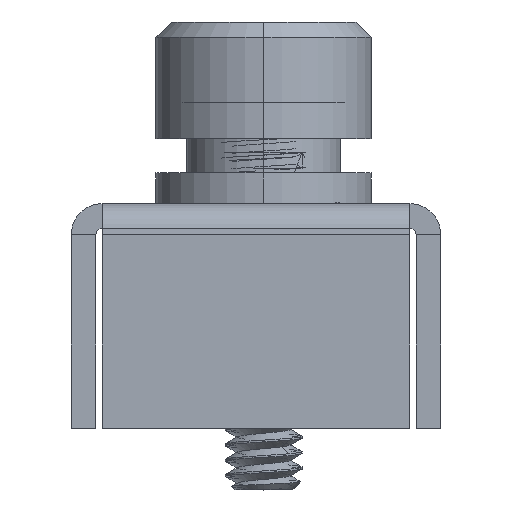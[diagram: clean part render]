
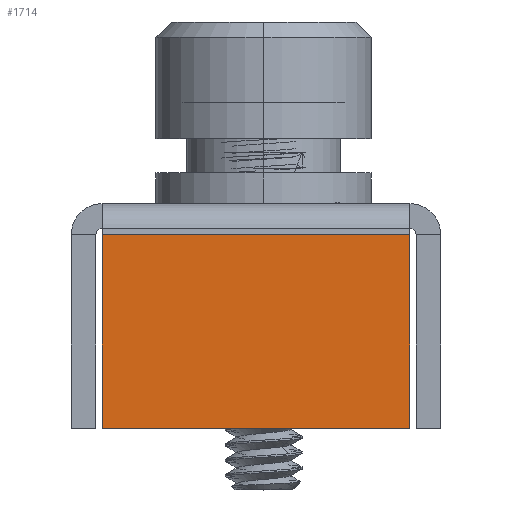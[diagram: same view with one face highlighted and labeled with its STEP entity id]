
A CAD part, left-side view. The second image highlights one B-rep face of the part: STEP entity #1714.
In plain terms, the highlighted planar face has unit normal (-1, 0, 0).
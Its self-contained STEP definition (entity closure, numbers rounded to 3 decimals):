
#345=DIRECTION('',(0.,0.,1.));
#346=VECTOR('',#345,6.3);
#347=CARTESIAN_POINT('',(-197.5,160.5,-6.5));
#348=LINE('',#347,#346);
#349=DIRECTION('',(0.,-1.,0.));
#350=VECTOR('',#349,10.);
#351=CARTESIAN_POINT('',(-197.5,170.5,-6.5));
#352=LINE('',#351,#350);
#353=DIRECTION('',(0.,0.,-1.));
#354=VECTOR('',#353,6.3);
#355=CARTESIAN_POINT('',(-197.5,170.5,-0.2));
#356=LINE('',#355,#354);
#371=DIRECTION('',(0.,1.,0.));
#372=VECTOR('',#371,10.);
#373=CARTESIAN_POINT('',(-197.5,160.5,-0.2));
#374=LINE('',#373,#372);
#1059=CARTESIAN_POINT('',(-197.5,170.5,-0.2));
#1060=CARTESIAN_POINT('',(-197.5,170.5,-6.5));
#1061=VERTEX_POINT('',#1059);
#1062=VERTEX_POINT('',#1060);
#1063=CARTESIAN_POINT('',(-197.5,160.5,-6.5));
#1064=VERTEX_POINT('',#1063);
#1065=CARTESIAN_POINT('',(-197.5,160.5,-0.2));
#1066=VERTEX_POINT('',#1065);
#1700=CARTESIAN_POINT('',(-197.5,170.5,0.8));
#1701=DIRECTION('',(-1.,0.,0.));
#1702=DIRECTION('',(0.,1.,0.));
#1703=AXIS2_PLACEMENT_3D('',#1700,#1701,#1702);
#1704=PLANE('',#1703);
#1706=ORIENTED_EDGE('',*,*,#1705,.F.);
#1707=ORIENTED_EDGE('',*,*,#1690,.F.);
#1709=ORIENTED_EDGE('',*,*,#1708,.F.);
#1711=ORIENTED_EDGE('',*,*,#1710,.F.);
#1712=EDGE_LOOP('',(#1706,#1707,#1709,#1711));
#1713=FACE_OUTER_BOUND('',#1712,.F.);
#1690=EDGE_CURVE('',#1064,#1066,#348,.T.);
#1705=EDGE_CURVE('',#1066,#1061,#374,.T.);
#1708=EDGE_CURVE('',#1062,#1064,#352,.T.);
#1710=EDGE_CURVE('',#1061,#1062,#356,.T.);
#1714=ADVANCED_FACE('',(#1713),#1704,.T.);
